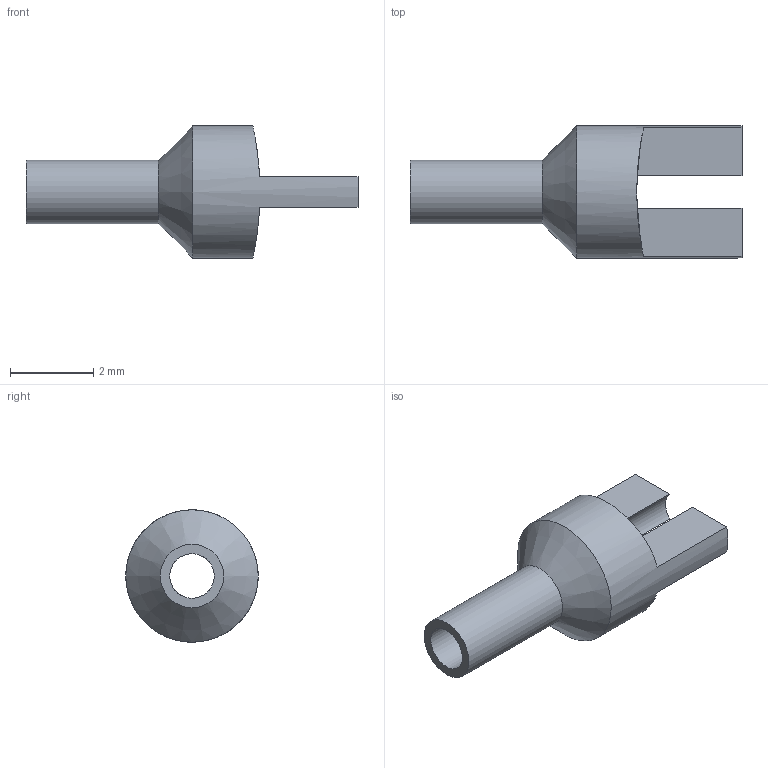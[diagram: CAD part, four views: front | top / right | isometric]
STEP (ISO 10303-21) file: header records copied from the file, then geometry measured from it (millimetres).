
FILE_DESCRIPTION(/* description */ (''),/* implementation_level */ '2;1');
FILE_NAME(/* name */ 'Z:\STEP folder\180-2752-03.ipt.stp',/* time_stamp */ '2016-12-07T16:17:07+00:00',/* author */ ('Paul Karlsons'),/* organization */ (''),/* preprocessor_version */ 'ST-DEVELOPER v15.2',/* originating_system */ 'Autodesk Inventor 2014',/* authorisation */ '');
FILE_SCHEMA (('AUTOMOTIVE_DESIGN { 1 0 10303 214 3 1 1 }'));
Length unit declared in the file: millimetre
Products named in the file (1): 180-2752-03
Bounding box: 7.96 x 3.17 x 3.17 mm (x, y, z)
Volume: 20.3 mm3; surface area: 84.2 mm2
Topology: 1 solids, 1 shells, 13 faces, 34 edges, 22 vertices
Faces by surface type: plane 7, cylinder 5, cone 1
Full cylindrical faces by diameter (mm): 1.067 x1, 1.524 x1, 3.175 x1
Entity records: 443 total; most frequent: CARTESIAN_POINT 122, DIRECTION 64, ORIENTED_EDGE 56, EDGE_CURVE 28, AXIS2_PLACEMENT_3D 26, VERTEX_POINT 20, EDGE_LOOP 18, ADVANCED_FACE 13
